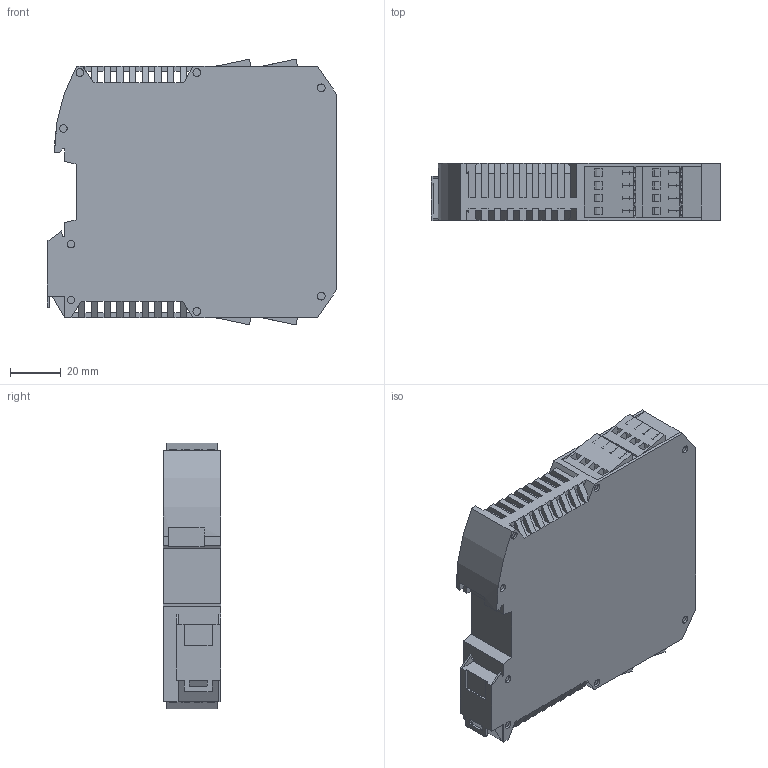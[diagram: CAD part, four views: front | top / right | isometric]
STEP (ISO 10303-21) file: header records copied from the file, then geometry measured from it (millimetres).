
FILE_DESCRIPTION (( 'STEP AP214' ), '1' );
FILE_NAME ('SD7_Basic.STEP', '2020-05-27T06:32:08', ( '' ), ( '' ), 'SwSTEP 2.0', 'SolidWorks 2018', '' );
FILE_SCHEMA (( 'AUTOMOTIVE_DESIGN' ));
Length unit declared in the file: millimetre
Products named in the file (1): SD7_Basic
Bounding box: 113.75 x 22.5 x 104.6 mm (x, y, z)
Volume: 227341.2 mm3; surface area: 37697.7 mm2
Topology: 1 solids, 1 shells, 589 faces, 1695 edges, 1102 vertices
Faces by surface type: plane 480, cylinder 109
Entity records: 25546 total; most frequent: ORIENTED_EDGE 3390, CARTESIAN_POINT 3387, DIRECTION 3159, EDGE_CURVE 1695, VECTOR 1411, LINE 1411, VERTEX_POINT 1102, AXIS2_PLACEMENT_3D 874
